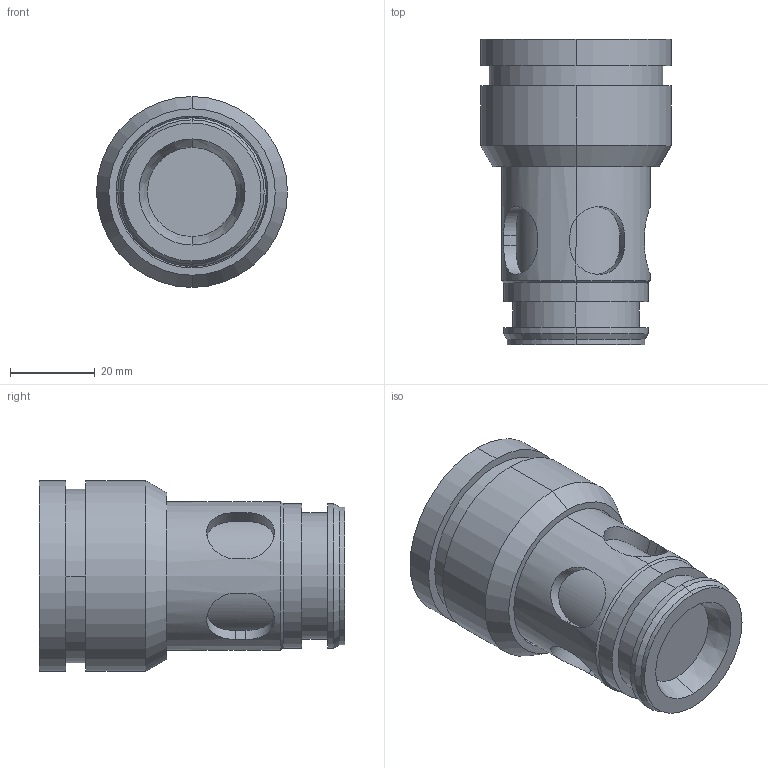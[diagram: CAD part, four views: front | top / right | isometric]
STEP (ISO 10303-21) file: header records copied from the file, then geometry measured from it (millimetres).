
FILE_DESCRIPTION (( 'STEP AP214' ), '1' );
FILE_NAME ('C.EN25-15.STEP', '2019-03-12T08:28:47', ( '' ), ( '' ), 'SwSTEP 2.0', 'SolidWorks 2018', '' );
FILE_SCHEMA (( 'AUTOMOTIVE_DESIGN' ));
Length unit declared in the file: millimetre
Products named in the file (1): C.EN25-15
Bounding box: 45 x 71.9 x 45 mm (x, y, z)
Volume: 75130.9 mm3; surface area: 14201.5 mm2
Topology: 1 solids, 1 shells, 66 faces, 147 edges, 94 vertices
Faces by surface type: cylinder 36, plane 20, cone 10
Entity records: 3313 total; most frequent: CARTESIAN_POINT 1178, DIRECTION 303, ORIENTED_EDGE 294, EDGE_CURVE 147, AXIS2_PLACEMENT_3D 115, VERTEX_POINT 94, EDGE_LOOP 77, LINE 73
